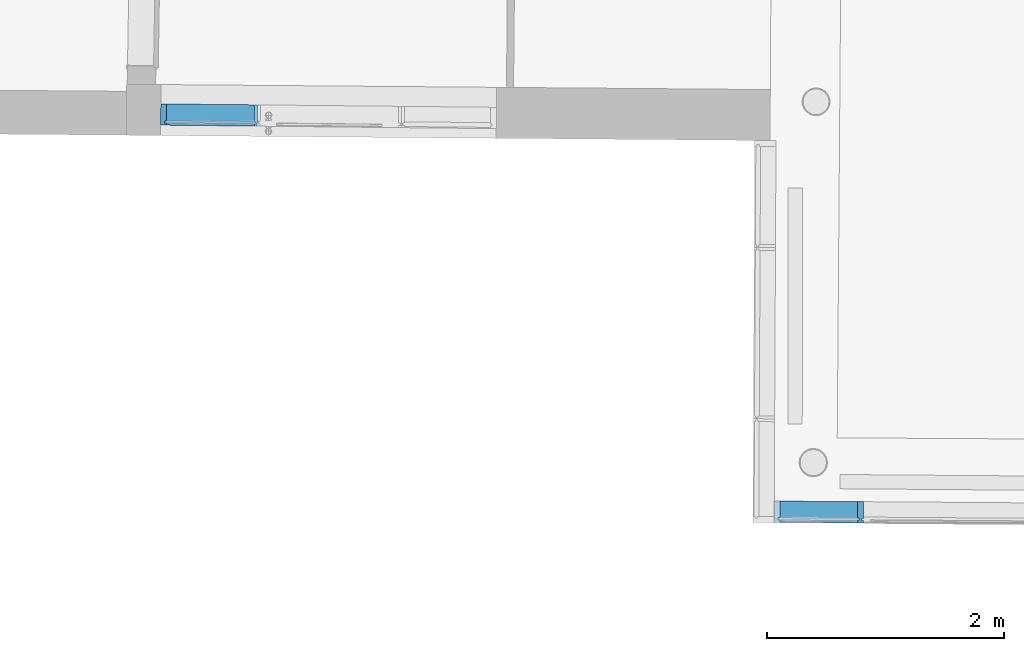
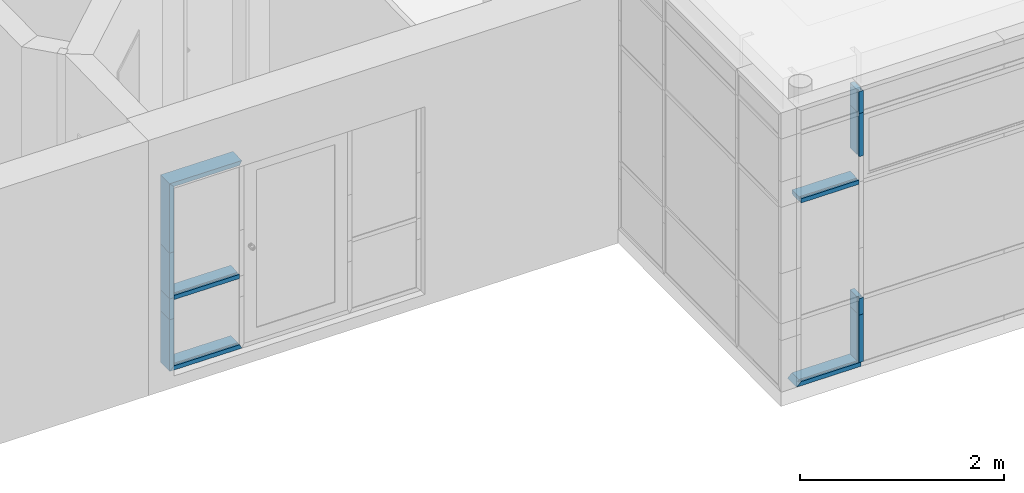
# One storey, part 167 of 196: 13 building element parts, 2 elements without a shape of their own.
"""IFC2X3 building model written with IfcOpenShell, lengths in metres."""

from ifc_helpers import new_model, entity, si_unit, converted_unit, derived_unit, money_unit, direction, frame, origin_with_axes, place, context, subcontext, project, spatial, faceted_brep, material, type_object, element, aggregate, save


model = new_model("IFC2X3")

# Units and contexts
model_context = context("Model", 3, precision=1e-05, world=origin_with_axes(), true_north=direction((0.0, 1.0)))
body_context = subcontext(model_context, "Body", "Model", "MODEL_VIEW")
ifc_project = project(units=[si_unit("LENGTHUNIT", "METRE"), si_unit("AREAUNIT", "SQUARE_METRE"), si_unit("VOLUMEUNIT", "CUBIC_METRE"), converted_unit("PLANEANGLEUNIT", "DEGREE", entity("IfcPlaneAngleMeasure", 0.0174532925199), si_unit("PLANEANGLEUNIT", "RADIAN"), dimensions=[0, 0, 0, 0, 0, 0, 0]), money_unit("EUR"), converted_unit("TIMEUNIT", "Year", entity("IfcTimeMeasure", 31556926.0), si_unit("TIMEUNIT", "SECOND"), dimensions=[0, 0, 1, 0, 0, 0, 0]), si_unit("MASSUNIT", "GRAM", prefix="KILO"), si_unit("THERMODYNAMICTEMPERATUREUNIT", "DEGREE_CELSIUS"), si_unit("LUMINOUSINTENSITYUNIT", "LUMEN"), si_unit("ENERGYUNIT", "JOULE", prefix="MEGA"), derived_unit("THERMALCONDUCTANCEUNIT", [(si_unit("POWERUNIT", "WATT"), 1), (si_unit("LENGTHUNIT", "METRE"), -1), (si_unit("THERMODYNAMICTEMPERATUREUNIT", "KELVIN"), -1)]), derived_unit("SPECIFICHEATCAPACITYUNIT", [(si_unit("ENERGYUNIT", "JOULE"), 1), (si_unit("MASSUNIT", "GRAM", prefix="KILO"), -1), (si_unit("THERMODYNAMICTEMPERATUREUNIT", "KELVIN"), -1)]), derived_unit("MASSDENSITYUNIT", [(si_unit("MASSUNIT", "GRAM", prefix="KILO"), 1), (si_unit("VOLUMEUNIT", "CUBIC_METRE"), -1)])], contexts=[model_context])

# Site, building, storey
site_placement = place(None, origin_with_axes())
site = spatial("IfcSite", under=ifc_project, at=site_placement, Name="Gelände", CompositionType="ELEMENT")
building_placement = place(site_placement, origin_with_axes())
building = spatial("IfcBuilding", under=site, at=building_placement, Name="Gebäude", CompositionType="ELEMENT")
storey_placement = place(building_placement, frame((0.0, 0.0, -3.0), z_axis=(0.0, 0.0, 1.0), x_axis=(1.0, 0.0, 0.0)))
storey = spatial("IfcBuildingStorey", under=building, at=storey_placement, Name="KELLERGESCHOSS", CompositionType="ELEMENT", Elevation=-3.0)

# Proxy, building element parts
building_element_proxy_type = type_object("IfcBuildingElementProxyType", Name="Fassadentyp", PredefinedType="NOTDEFINED")
proxy_1_placement = place(storey_placement, frame((2.54090824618, 35.7894672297, 0.610000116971), z_axis=(0.0, 0.0, 1.0), x_axis=(1.0, 0.0, 0.0)))
proxy_1 = element("IfcBuildingElementProxy", 1, at=proxy_1_placement, inside=storey, type_object=building_element_proxy_type, Name="Fassade-002")
ifc_material = material(Name="53_Metall, Aluminium")
building_element_part_1_placement = place(proxy_1_placement, origin_with_axes())
building_element_part_1 = element("IfcBuildingElementPart", 2, at=building_element_part_1_placement, material=ifc_material, Name="53_Metall, Aluminium", context=body_context, shape_type="Brep", body=[
    faceted_brep([(-2.64900476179, 0.0291953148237, 2.20648768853), (-2.64900476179, 0.0291953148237, 2.19148768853), (-2.6479903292, 0.169191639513, 2.19148768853), (-2.6479903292, 0.169191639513, 2.24148768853), (-2.64900476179, 0.0291953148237, 2.24148768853), (-2.64900476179, 0.0291953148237, 2.22648768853), (-2.64914968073, 0.00919583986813, 2.22648768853), (-2.64914968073, 0.00919583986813, 2.24148768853), (-2.64929459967, -0.0108036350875, 2.24148768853), (-2.64929459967, -0.0108036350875, 2.19148768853), (-2.64914968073, 0.00919583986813, 2.19148768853), (-2.64914968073, 0.00919583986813, 2.20648768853), (-3.30411903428, 0.0339423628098, 2.20648768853), (-3.30411903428, 0.0339423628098, 2.19148768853), (-3.30310460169, 0.173938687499, 2.19148768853), (-3.30310460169, 0.173938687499, 2.24148768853), (-3.30411903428, 0.0339423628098, 2.24148768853), (-3.30411903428, 0.0339423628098, 2.22648768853), (-3.30426395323, 0.0139428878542, 2.22648768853), (-3.30426395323, 0.0139428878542, 2.24148768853), (-3.30440887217, -0.00605658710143, 2.24148768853), (-3.30440887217, -0.00605658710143, 2.19148768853), (-3.30426395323, 0.0139428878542, 2.19148768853), (-3.30426395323, 0.0139428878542, 2.20648768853)], [[[0, 1, 2, 3, 4, 5, 6, 7, 8, 9, 10, 11]], [[1, 0, 12, 13]], [[1, 13, 14, 2]], [[2, 14, 15, 3]], [[4, 3, 15, 16]], [[4, 16, 17, 5]], [[5, 17, 18, 6]], [[7, 6, 18, 19]], [[19, 20, 8, 7]], [[8, 20, 21, 9]], [[22, 10, 9, 21]], [[11, 10, 22, 23]], [[0, 11, 23, 12]], [[23, 22, 21, 20, 19, 18, 17, 16, 15, 14, 13, 12]]]),
])
building_element_part_2_placement = place(proxy_1_placement, origin_with_axes())
building_element_part_2 = element("IfcBuildingElementPart", 3, at=building_element_part_2_placement, material=ifc_material, Name="53_Metall, Aluminium", context=body_context, shape_type="Brep", body=[
    faceted_brep([(-2.61400568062, 0.0289417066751, 0.619999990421), (-2.5990060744, 0.0288330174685, 0.619999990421), (-2.59799164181, 0.168829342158, 0.619999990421), (-2.6479903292, 0.169191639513, 0.619999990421), (-2.64900476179, 0.0291953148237, 0.619999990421), (-2.63400515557, 0.0290866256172, 0.619999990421), (-2.63415007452, 0.00908715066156, 0.619999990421), (-2.64914968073, 0.00919583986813, 0.619999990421), (-2.64929459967, -0.0108036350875, 0.619999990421), (-2.59929591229, -0.0111659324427, 0.619999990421), (-2.59915099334, 0.00883354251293, 0.619999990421), (-2.61415059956, 0.00894223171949, 0.619999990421), (-2.61400568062, 0.0289417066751, 0.0499999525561), (-2.5990060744, 0.0288330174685, 0.0499999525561), (-2.59799164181, 0.168829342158, 0.0499999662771), (-2.6479903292, 0.169191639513, 0.0499999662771), (-2.64900476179, 0.0291953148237, 0.0499999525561), (-2.63400515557, 0.0290866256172, 0.0499999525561), (-2.63415007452, 0.00908715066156, 0.049999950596), (-2.64914968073, 0.00919583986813, 0.049999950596), (-2.64929459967, -0.0108036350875, 0.0499999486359), (-2.59929591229, -0.0111659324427, 0.0499999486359), (-2.59915099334, 0.00883354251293, 0.049999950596), (-2.61415059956, 0.00894223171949, 0.049999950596)], [[[0, 1, 2, 3, 4, 5, 6, 7, 8, 9, 10, 11]], [[1, 0, 12, 13]], [[1, 13, 14, 2]], [[2, 14, 15, 3]], [[4, 3, 15, 16]], [[4, 16, 17, 5]], [[5, 17, 18, 6]], [[7, 6, 18, 19]], [[19, 20, 8, 7]], [[8, 20, 21, 9]], [[22, 10, 9, 21]], [[11, 10, 22, 23]], [[0, 11, 23, 12]], [[23, 22, 21, 20, 19, 18, 17, 16, 15, 14, 13, 12]]]),
])
building_element_part_3_placement = place(proxy_1_placement, origin_with_axes())
building_element_part_3 = element("IfcBuildingElementPart", 4, at=building_element_part_3_placement, material=ifc_material, Name="53_Metall, Aluminium", context=body_context, shape_type="Brep", body=[
    faceted_brep([(-2.61400568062, 0.0289417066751, 0.818463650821), (-2.5990060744, 0.0288330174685, 0.818463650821), (-2.59799164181, 0.168829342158, 0.818463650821), (-2.6479903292, 0.169191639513, 0.818463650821), (-2.64900476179, 0.0291953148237, 0.818463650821), (-2.63400515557, 0.0290866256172, 0.818463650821), (-2.63415007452, 0.00908715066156, 0.818463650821), (-2.64914968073, 0.00919583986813, 0.818463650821), (-2.64929459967, -0.0108036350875, 0.818463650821), (-2.59929591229, -0.0111659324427, 0.818463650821), (-2.59915099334, 0.00883354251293, 0.818463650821), (-2.61415059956, 0.00894223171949, 0.818463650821), (-2.61400568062, 0.0289417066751, 0.619999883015), (-2.5990060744, 0.0288330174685, 0.619999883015), (-2.59799164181, 0.168829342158, 0.619999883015), (-2.6479903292, 0.169191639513, 0.619999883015), (-2.64900476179, 0.0291953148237, 0.619999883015), (-2.63400515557, 0.0290866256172, 0.619999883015), (-2.63415007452, 0.00908715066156, 0.619999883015), (-2.64914968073, 0.00919583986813, 0.619999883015), (-2.64929459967, -0.0108036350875, 0.619999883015), (-2.59929591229, -0.0111659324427, 0.619999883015), (-2.59915099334, 0.00883354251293, 0.619999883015), (-2.61415059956, 0.00894223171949, 0.619999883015)], [[[0, 1, 2, 3, 4, 5, 6, 7, 8, 9, 10, 11]], [[1, 0, 12, 13]], [[1, 13, 14, 2]], [[3, 2, 14, 15]], [[4, 3, 15, 16]], [[4, 16, 17, 5]], [[5, 17, 18, 6]], [[7, 6, 18, 19]], [[19, 20, 8, 7]], [[9, 8, 20, 21]], [[22, 10, 9, 21]], [[11, 10, 22, 23]], [[0, 11, 23, 12]], [[23, 22, 21, 20, 19, 18, 17, 16, 15, 14, 13, 12]]]),
])
building_element_part_4_placement = place(proxy_1_placement, origin_with_axes())
building_element_part_4 = element("IfcBuildingElementPart", 5, at=building_element_part_4_placement, material=ifc_material, Name="53_Metall, Aluminium", context=body_context, shape_type="Brep", body=[
    faceted_brep([(-2.61400568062, 0.0289417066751, 3.29999994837), (-2.5990060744, 0.0288330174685, 3.29999994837), (-2.59799164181, 0.168829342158, 3.29999994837), (-2.6479903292, 0.169191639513, 3.29999994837), (-2.64900476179, 0.0291953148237, 3.29999994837), (-2.63400515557, 0.0290866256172, 3.29999994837), (-2.63415007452, 0.00908715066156, 3.29999994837), (-2.64914968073, 0.00919583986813, 3.29999994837), (-2.64929459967, -0.0108036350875, 3.29999994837), (-2.59929591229, -0.0111659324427, 3.29999994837), (-2.59915099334, 0.00883354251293, 3.29999994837), (-2.61415059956, 0.00894223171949, 3.29999994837), (-2.61400568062, 0.0289417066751, 3.03649576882), (-2.5990060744, 0.0288330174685, 3.03649576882), (-2.59799164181, 0.168829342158, 3.03649576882), (-2.6479903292, 0.169191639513, 3.03649576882), (-2.64900476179, 0.0291953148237, 3.03649576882), (-2.63400515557, 0.0290866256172, 3.03649576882), (-2.63415007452, 0.00908715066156, 3.03649576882), (-2.64914968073, 0.00919583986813, 3.03649576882), (-2.64929459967, -0.0108036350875, 3.03649576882), (-2.59929591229, -0.0111659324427, 3.03649576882), (-2.59915099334, 0.00883354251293, 3.03649576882), (-2.61415059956, 0.00894223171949, 3.03649576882)], [[[0, 1, 2, 3, 4, 5, 6, 7, 8, 9, 10, 11]], [[1, 0, 12, 13]], [[1, 13, 14, 2]], [[3, 2, 14, 15]], [[4, 3, 15, 16]], [[4, 16, 17, 5]], [[5, 17, 18, 6]], [[7, 6, 18, 19]], [[19, 20, 8, 7]], [[9, 8, 20, 21]], [[22, 10, 9, 21]], [[11, 10, 22, 23]], [[0, 11, 23, 12]], [[23, 22, 21, 20, 19, 18, 17, 16, 15, 14, 13, 12]]]),
])
building_element_part_5_placement = place(proxy_1_placement, origin_with_axes())
building_element_part_5 = element("IfcBuildingElementPart", 6, at=building_element_part_5_placement, material=ifc_material, Name="53_Metall, Aluminium", context=body_context, shape_type="Brep", body=[
    faceted_brep([(-2.6240054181, 0.0290141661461, 0.035), (-2.62415033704, 0.00901469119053, 0.035), (-2.62415033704, 0.00901469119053, 0.05), (-2.62429525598, -0.0109847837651, 0.05), (-2.62429525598, -0.0109847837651, 0.0), (-2.6229909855, 0.169010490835, 0.0), (-2.6229909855, 0.169010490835, 0.05), (-2.6240054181, 0.0290141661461, 0.05), (-3.31911864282, 0.0340510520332, 0.035), (-3.31926356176, 0.0140515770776, 0.035), (-3.30426395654, 0.0139428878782, 0.05), (-3.30440887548, -0.00605658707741, 0.05), (-3.35440755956, -0.00569428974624, 0.0), (-3.35310328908, 0.174300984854, 0.0), (-3.30310460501, 0.173938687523, 0.05), (-3.3041190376, 0.0339423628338, 0.05)], [[[0, 1, 2, 3, 4, 5, 6, 7]], [[1, 0, 8, 9]], [[10, 2, 1, 9]], [[2, 10, 11, 3]], [[4, 3, 11, 12]], [[5, 4, 12, 13]], [[6, 5, 13, 14]], [[15, 7, 6, 14]], [[0, 7, 15, 8]], [[8, 15, 14, 13, 12, 11, 10, 9]]]),
])
building_element_part_6_placement = place(proxy_1_placement, origin_with_axes())
building_element_part_6 = element("IfcBuildingElementPart", 7, at=building_element_part_6_placement, material=ifc_material, Name="53_Metall, Aluminium", context=body_context, shape_type="Brep", body=[
    faceted_brep([(-2.61400568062, 0.0289417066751, 3.03649576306), (-2.5990060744, 0.0288330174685, 3.03649576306), (-2.59799164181, 0.168829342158, 3.03649576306), (-2.6479903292, 0.169191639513, 3.03649576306), (-2.64900476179, 0.0291953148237, 3.03649576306), (-2.63400515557, 0.0290866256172, 3.03649576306), (-2.63415007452, 0.00908715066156, 3.03649576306), (-2.64914968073, 0.00919583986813, 3.03649576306), (-2.64929459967, -0.0108036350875, 3.03649576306), (-2.59929591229, -0.0111659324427, 3.03649576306), (-2.59915099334, 0.00883354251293, 3.03649576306), (-2.61415059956, 0.00894223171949, 3.03649576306), (-2.61400568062, 0.0289417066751, 2.51999988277), (-2.5990060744, 0.0288330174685, 2.51999988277), (-2.59799164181, 0.168829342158, 2.51999988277), (-2.6479903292, 0.169191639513, 2.51999988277), (-2.64900476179, 0.0291953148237, 2.51999988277), (-2.63400515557, 0.0290866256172, 2.51999988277), (-2.63415007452, 0.00908715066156, 2.51999988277), (-2.64914968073, 0.00919583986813, 2.51999988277), (-2.64929459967, -0.0108036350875, 2.51999988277), (-2.59929591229, -0.0111659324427, 2.51999988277), (-2.59915099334, 0.00883354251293, 2.51999988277), (-2.61415059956, 0.00894223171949, 2.51999988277)], [[[0, 1, 2, 3, 4, 5, 6, 7, 8, 9, 10, 11]], [[1, 0, 12, 13]], [[1, 13, 14, 2]], [[3, 2, 14, 15]], [[4, 3, 15, 16]], [[4, 16, 17, 5]], [[5, 17, 18, 6]], [[7, 6, 18, 19]], [[19, 20, 8, 7]], [[9, 8, 20, 21]], [[22, 10, 9, 21]], [[11, 10, 22, 23]], [[0, 11, 23, 12]], [[23, 22, 21, 20, 19, 18, 17, 16, 15, 14, 13, 12]]]),
])
aggregate(proxy_1, [building_element_part_1, building_element_part_2, building_element_part_3, building_element_part_4, building_element_part_5, building_element_part_6])

proxy_2_placement = place(storey_placement, frame((-5.58247621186, 39.1627608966, 0.57767685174), z_axis=(0.0, 0.0, 1.0), x_axis=(1.0, 0.0, 0.0)))
proxy_2 = element("IfcBuildingElementProxy", 8, at=proxy_2_placement, inside=storey, type_object=building_element_proxy_type, Name="Fassade-002")
building_element_part_7_placement = place(proxy_2_placement, origin_with_axes())
building_element_part_7 = element("IfcBuildingElementPart", 9, at=building_element_part_7_placement, material=ifc_material, Name="53_Metall, Aluminium", context=body_context, shape_type="Brep", body=[
    faceted_brep([(-0.372853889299, 0.0138872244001, 0.619999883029), (-0.357854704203, 0.0137308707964, 0.619999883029), (-0.356395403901, 0.153723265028, 0.619999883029), (-0.406392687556, 0.154244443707, 0.619999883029), (-0.4082689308, -0.0257457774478, 0.619999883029), (-0.358271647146, -0.0262669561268, 0.619999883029), (-0.358063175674, -0.00626804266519, 0.619999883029), (-0.373062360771, -0.00611168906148, 0.619999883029), (-0.372853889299, 0.0138872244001, 0.0349999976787), (-0.357854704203, 0.0137308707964, 0.0499999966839), (-0.356395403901, 0.153723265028, 0.0499999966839), (-0.406392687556, 0.154244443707, 0.0), (-0.4082689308, -0.0257457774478, 0.0), (-0.358271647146, -0.0262669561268, 0.0499999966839), (-0.358063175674, -0.00626804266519, 0.0499999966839), (-0.373062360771, -0.00611168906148, 0.0349999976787)], [[[0, 1, 2, 3, 4, 5, 6, 7]], [[0, 8, 9, 1]], [[9, 10, 2, 1]], [[2, 10, 11, 3]], [[3, 11, 12, 4]], [[4, 12, 13, 5]], [[6, 5, 13, 14]], [[14, 15, 7, 6]], [[7, 15, 8, 0]], [[8, 15, 14, 13, 12, 11, 10, 9]]]),
])
building_element_part_8_placement = place(proxy_2_placement, origin_with_axes())
building_element_part_8 = element("IfcBuildingElementPart", 10, at=building_element_part_8_placement, material=ifc_material, Name="53_Metall, Aluminium", context=body_context, shape_type="Brep", body=[
    faceted_brep([(-0.372853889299, 0.0138872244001, 1.41999992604), (-0.357854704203, 0.0137308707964, 1.41999992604), (-0.356395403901, 0.153723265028, 1.41999992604), (-0.406392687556, 0.154244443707, 1.41999992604), (-0.4082689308, -0.0257457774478, 1.41999992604), (-0.358271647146, -0.0262669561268, 1.41999992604), (-0.358063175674, -0.00626804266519, 1.41999992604), (-0.373062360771, -0.00611168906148, 1.41999992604), (-0.372853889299, 0.0138872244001, 0.869344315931), (-0.357854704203, 0.0137308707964, 0.869344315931), (-0.356395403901, 0.153723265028, 0.869344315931), (-0.406392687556, 0.154244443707, 0.869344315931), (-0.4082689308, -0.0257457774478, 0.869344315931), (-0.358271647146, -0.0262669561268, 0.869344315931), (-0.358063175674, -0.00626804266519, 0.869344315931), (-0.373062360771, -0.00611168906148, 0.869344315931)], [[[0, 1, 2, 3, 4, 5, 6, 7]], [[0, 8, 9, 1]], [[9, 10, 2, 1]], [[10, 11, 3, 2]], [[11, 12, 4, 3]], [[12, 13, 5, 4]], [[6, 5, 13, 14]], [[14, 15, 7, 6]], [[7, 15, 8, 0]], [[8, 15, 14, 13, 12, 11, 10, 9]]]),
])
building_element_part_9_placement = place(proxy_2_placement, origin_with_axes())
building_element_part_9 = element("IfcBuildingElementPart", 11, at=building_element_part_9_placement, material=ifc_material, Name="53_Metall, Aluminium", context=body_context, shape_type="Brep", body=[
    faceted_brep([(-0.372853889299, 0.0138872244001, 0.869344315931), (-0.357854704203, 0.0137308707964, 0.869344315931), (-0.356395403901, 0.153723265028, 0.869344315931), (-0.406392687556, 0.154244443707, 0.869344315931), (-0.4082689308, -0.0257457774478, 0.869344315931), (-0.358271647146, -0.0262669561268, 0.869344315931), (-0.358063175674, -0.00626804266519, 0.869344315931), (-0.373062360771, -0.00611168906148, 0.869344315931), (-0.372853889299, 0.0138872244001, 0.619999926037), (-0.357854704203, 0.0137308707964, 0.619999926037), (-0.356395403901, 0.153723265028, 0.619999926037), (-0.406392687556, 0.154244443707, 0.619999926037), (-0.4082689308, -0.0257457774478, 0.619999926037), (-0.358271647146, -0.0262669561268, 0.619999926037), (-0.358063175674, -0.00626804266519, 0.619999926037), (-0.373062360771, -0.00611168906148, 0.619999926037)], [[[0, 1, 2, 3, 4, 5, 6, 7]], [[0, 8, 9, 1]], [[9, 10, 2, 1]], [[10, 11, 3, 2]], [[11, 12, 4, 3]], [[12, 13, 5, 4]], [[6, 5, 13, 14]], [[14, 15, 7, 6]], [[7, 15, 8, 0]], [[8, 15, 14, 13, 12, 11, 10, 9]]]),
])
building_element_part_10_placement = place(proxy_2_placement, origin_with_axes())
building_element_part_10 = element("IfcBuildingElementPart", 12, at=building_element_part_10_placement, material=ifc_material, Name="53_Metall, Aluminium", context=body_context, shape_type="Brep", body=[
    faceted_brep([(-0.372853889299, 0.0138872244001, 2.21581791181), (-0.357854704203, 0.0137308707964, 2.20081791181), (-0.356395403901, 0.153723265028, 2.20081791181), (-0.406392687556, 0.154244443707, 2.25081791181), (-0.4082689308, -0.0257457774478, 2.25081791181), (-0.358271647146, -0.0262669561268, 2.20081791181), (-0.358063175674, -0.00626804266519, 2.20081791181), (-0.373062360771, -0.00611168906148, 2.21581791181), (-0.372853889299, 0.0138872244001, 1.41999992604), (-0.357854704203, 0.0137308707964, 1.41999992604), (-0.356395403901, 0.153723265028, 1.41999992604), (-0.406392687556, 0.154244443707, 1.41999992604), (-0.4082689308, -0.0257457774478, 1.41999992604), (-0.358271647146, -0.0262669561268, 1.41999992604), (-0.358063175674, -0.00626804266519, 1.41999992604), (-0.373062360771, -0.00611168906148, 1.41999992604)], [[[0, 1, 2, 3, 4, 5, 6, 7]], [[0, 8, 9, 1]], [[9, 10, 2, 1]], [[10, 11, 3, 2]], [[11, 12, 4, 3]], [[12, 13, 5, 4]], [[6, 5, 13, 14]], [[14, 15, 7, 6]], [[7, 15, 8, 0]], [[8, 15, 14, 13, 12, 11, 10, 9]]]),
])
building_element_part_11_placement = place(proxy_2_placement, origin_with_axes())
building_element_part_11 = element("IfcBuildingElementPart", 13, at=building_element_part_11_placement, material=ifc_material, Name="53_Metall, Aluminium", context=body_context, shape_type="Brep", body=[
    faceted_brep([(0.383061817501, 0.00600745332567, 0.859344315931), (0.383061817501, 0.00600745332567, 0.844344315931), (0.384521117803, 0.145999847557, 0.844344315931), (0.384521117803, 0.145999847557, 0.894344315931), (0.383061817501, 0.00600745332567, 0.894344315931), (0.383061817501, 0.00600745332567, 0.879344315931), (0.38285334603, -0.013991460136, 0.879344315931), (0.38285334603, -0.013991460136, 0.894344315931), (0.382644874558, -0.0339903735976, 0.894344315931), (0.382644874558, -0.0339903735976, 0.844344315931), (0.38285334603, -0.013991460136, 0.844344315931), (0.38285334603, -0.013991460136, 0.859344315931), (-0.357854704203, 0.0137308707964, 0.859344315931), (-0.357854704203, 0.0137308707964, 0.844344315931), (-0.356395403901, 0.153723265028, 0.844344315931), (-0.356395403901, 0.153723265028, 0.894344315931), (-0.357854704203, 0.0137308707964, 0.894344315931), (-0.357854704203, 0.0137308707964, 0.879344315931), (-0.358063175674, -0.00626804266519, 0.879344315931), (-0.358063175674, -0.00626804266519, 0.894344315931), (-0.358271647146, -0.0262669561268, 0.894344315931), (-0.358271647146, -0.0262669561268, 0.844344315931), (-0.358063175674, -0.00626804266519, 0.844344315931), (-0.358063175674, -0.00626804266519, 0.859344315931)], [[[0, 1, 2, 3, 4, 5, 6, 7, 8, 9, 10, 11]], [[1, 0, 12, 13]], [[1, 13, 14, 2]], [[2, 14, 15, 3]], [[4, 3, 15, 16]], [[4, 16, 17, 5]], [[5, 17, 18, 6]], [[7, 6, 18, 19]], [[19, 20, 8, 7]], [[8, 20, 21, 9]], [[22, 10, 9, 21]], [[11, 10, 22, 23]], [[0, 11, 23, 12]], [[23, 22, 21, 20, 19, 18, 17, 16, 15, 14, 13, 12]]]),
])
building_element_part_12_placement = place(proxy_2_placement, origin_with_axes())
building_element_part_12 = element("IfcBuildingElementPart", 14, at=building_element_part_12_placement, material=ifc_material, Name="53_Metall, Aluminium", context=body_context, shape_type="Brep", body=[
    faceted_brep([(0.39056141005, 0.00592927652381, 2.21581791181), (0.383061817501, 0.00600745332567, 2.20081791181), (0.384521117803, 0.145999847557, 2.20081791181), (0.40951975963, 0.145739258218, 2.25081791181), (0.407643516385, -0.0342509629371, 2.25081791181), (0.382644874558, -0.0339903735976, 2.20081791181), (0.38285334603, -0.013991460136, 2.20081791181), (0.390352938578, -0.0140696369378, 2.21581791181), (-0.372853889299, 0.0138872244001, 2.21581791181), (-0.357854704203, 0.0137308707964, 2.20081791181), (-0.356395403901, 0.153723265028, 2.20081791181), (-0.406392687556, 0.154244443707, 2.25081791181), (-0.4082689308, -0.0257457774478, 2.25081791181), (-0.358271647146, -0.0262669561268, 2.20081791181), (-0.358063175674, -0.00626804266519, 2.20081791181), (-0.373062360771, -0.00611168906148, 2.21581791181)], [[[0, 1, 2, 3, 4, 5, 6, 7]], [[0, 8, 9, 1]], [[9, 10, 2, 1]], [[2, 10, 11, 3]], [[3, 11, 12, 4]], [[4, 12, 13, 5]], [[6, 5, 13, 14]], [[14, 15, 7, 6]], [[7, 15, 8, 0]], [[8, 15, 14, 13, 12, 11, 10, 9]]]),
])
building_element_part_13_placement = place(proxy_2_placement, origin_with_axes())
building_element_part_13 = element("IfcBuildingElementPart", 15, at=building_element_part_13_placement, material=ifc_material, Name="53_Metall, Aluminium", context=body_context, shape_type="Brep", body=[
    faceted_brep([(0.39056141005, 0.00592927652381, 0.035), (0.390352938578, -0.0140696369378, 0.035), (0.38285334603, -0.013991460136, 0.05), (0.382644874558, -0.0339903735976, 0.05), (0.407643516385, -0.0342509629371, 0.0), (0.40951975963, 0.145739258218, 0.0), (0.384521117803, 0.145999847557, 0.05), (0.383061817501, 0.00600745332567, 0.05), (-0.372853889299, 0.0138872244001, 0.035), (-0.373062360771, -0.00611168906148, 0.035), (-0.358063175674, -0.00626804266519, 0.05), (-0.358271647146, -0.0262669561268, 0.05), (-0.4082689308, -0.0257457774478, 0.0), (-0.406392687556, 0.154244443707, 0.0), (-0.356395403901, 0.153723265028, 0.05), (-0.357854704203, 0.0137308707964, 0.05)], [[[0, 1, 2, 3, 4, 5, 6, 7]], [[1, 0, 8, 9]], [[10, 2, 1, 9]], [[2, 10, 11, 3]], [[4, 3, 11, 12]], [[5, 4, 12, 13]], [[6, 5, 13, 14]], [[15, 7, 6, 14]], [[0, 7, 15, 8]], [[8, 15, 14, 13, 12, 11, 10, 9]]]),
])
aggregate(proxy_2, [building_element_part_7, building_element_part_8, building_element_part_9, building_element_part_10, building_element_part_11, building_element_part_12, building_element_part_13])

save(model, "model.ifc")
